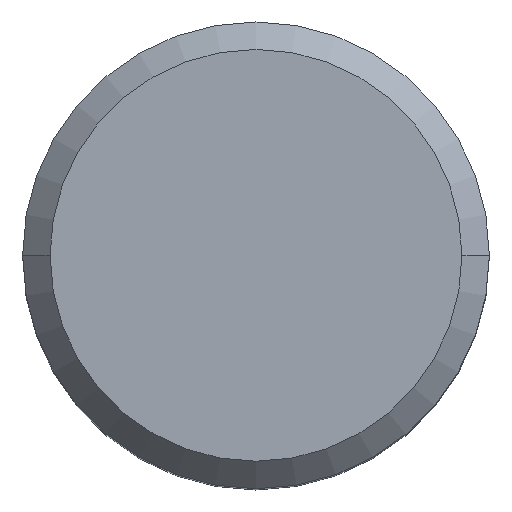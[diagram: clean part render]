
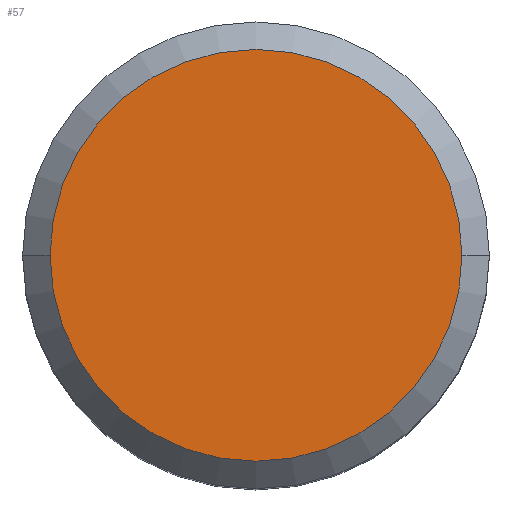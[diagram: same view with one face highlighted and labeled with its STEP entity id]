
A CAD part, top view. The second image highlights one B-rep face of the part: STEP entity #57.
In plain terms, the highlighted planar face has unit normal (0, 0, 1).
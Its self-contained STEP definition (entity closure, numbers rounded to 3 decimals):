
#44 = EDGE_CURVE ( 'NONE', #130, #128, #312, .T. ) ;
#57 = ADVANCED_FACE ( 'NONE', ( #328 ), #290, .F. ) ;
#59 = ORIENTED_EDGE ( 'NONE', *, *, #98, .T. ) ;
#64 = ORIENTED_EDGE ( 'NONE', *, *, #44, .T. ) ;
#98 = EDGE_CURVE ( 'NONE', #128, #130, #263, .T. ) ;
#128 = VERTEX_POINT ( 'NONE', #379 ) ;
#130 = VERTEX_POINT ( 'NONE', #378 ) ;
#163 = EDGE_LOOP ( 'NONE', ( #59, #64 ) ) ;
#183 = DIRECTION ( 'NONE',  ( -1., 0., 0. ) ) ;
#184 = DIRECTION ( 'NONE',  ( 0., 0., -1. ) ) ;
#185 = CARTESIAN_POINT ( 'NONE',  ( 0., 8.5, 0. ) ) ;
#263 = CIRCLE ( 'NONE', #348, 7.5 ) ;
#272 = CARTESIAN_POINT ( 'NONE',  ( 0., 0., 0. ) ) ;
#273 = AXIS2_PLACEMENT_3D ( 'NONE', #272, #317, #316 ) ;
#276 = AXIS2_PLACEMENT_3D ( 'NONE', #185, #184, #183 ) ;
#290 = PLANE ( 'NONE',  #276 ) ;
#312 = CIRCLE ( 'NONE', #273, 7.5 ) ;
#316 = DIRECTION ( 'NONE',  ( -1., 0., 0. ) ) ;
#317 = DIRECTION ( 'NONE',  ( 0., 0., 1. ) ) ;
#328 = FACE_OUTER_BOUND ( 'NONE', #163, .T. ) ;
#345 = DIRECTION ( 'NONE',  ( -1., 0., 0. ) ) ;
#346 = DIRECTION ( 'NONE',  ( 0., 0., 1. ) ) ;
#347 = CARTESIAN_POINT ( 'NONE',  ( 0., 0., 0. ) ) ;
#348 = AXIS2_PLACEMENT_3D ( 'NONE', #347, #346, #345 ) ;
#378 = CARTESIAN_POINT ( 'NONE',  ( 7.5, 0., 0. ) ) ;
#379 = CARTESIAN_POINT ( 'NONE',  ( -7.5, 0., 0. ) ) ;
